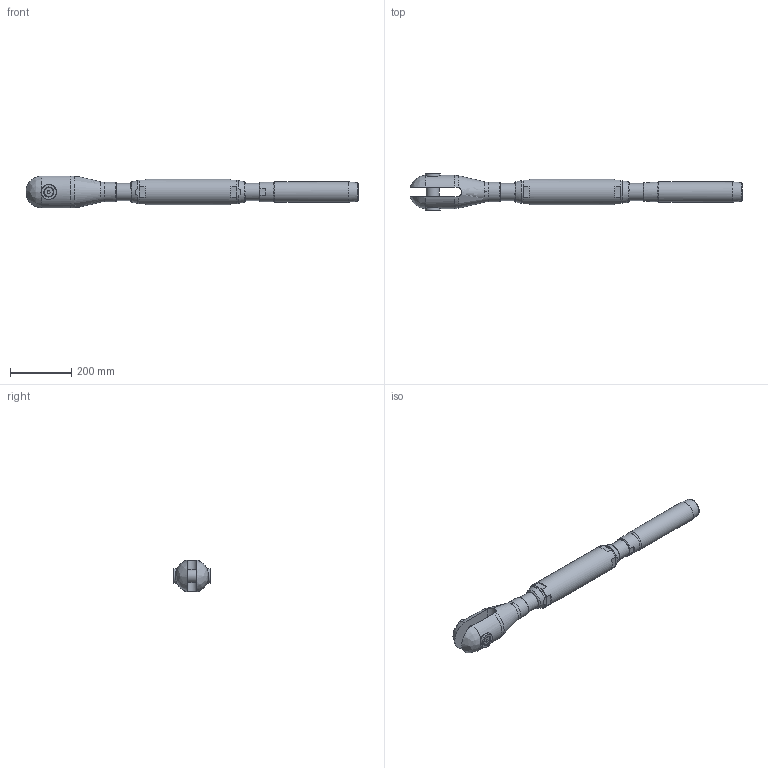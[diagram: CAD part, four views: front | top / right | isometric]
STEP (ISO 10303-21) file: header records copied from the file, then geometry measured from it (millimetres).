
FILE_DESCRIPTION(/* description */ (''),/* implementation_level */ '2;1');
FILE_NAME(/* name */ 'TBC 30_S355',/* time_stamp */ '2023-05-23T18:17:42+02:00',/* author */ (''),/* organization */ (''),/* preprocessor_version */ 'ST-DEVELOPER v16.5',/* originating_system */ 'Rhino 7.22',/* authorisation */ '');
FILE_SCHEMA (('CONFIG_CONTROL_DESIGN'));
Length unit declared in the file: millimetre
Products named in the file (1): Document
Bounding box: 1087.03 x 119.28 x 104.2 mm (x, y, z)
Volume: 4615485.4 mm3; surface area: 468102.3 mm2
Topology: 10 solids, 10 shells, 140 faces, 382 edges, 264 vertices
Faces by surface type: plane 65, bspline 40, cylinder 35
Full cylindrical faces by diameter (mm): 13.835 x2, 16 x2, 17 x2, 29.01 x2, 43 x1, 45 x2, 49 x2, 52.752 x4, 56 x2, 60 x1, 63.5 x2, 66.8 x1, 84 x1
Entity records: 5927 total; most frequent: CARTESIAN_POINT 3502, ORIENTED_EDGE 756, EDGE_CURVE 378, VERTEX_POINT 264, EDGE_LOOP 160, B_SPLINE_CURVE_WITH_KNOTS 157, ADVANCED_FACE 140, FACE_OUTER_BOUND 140
